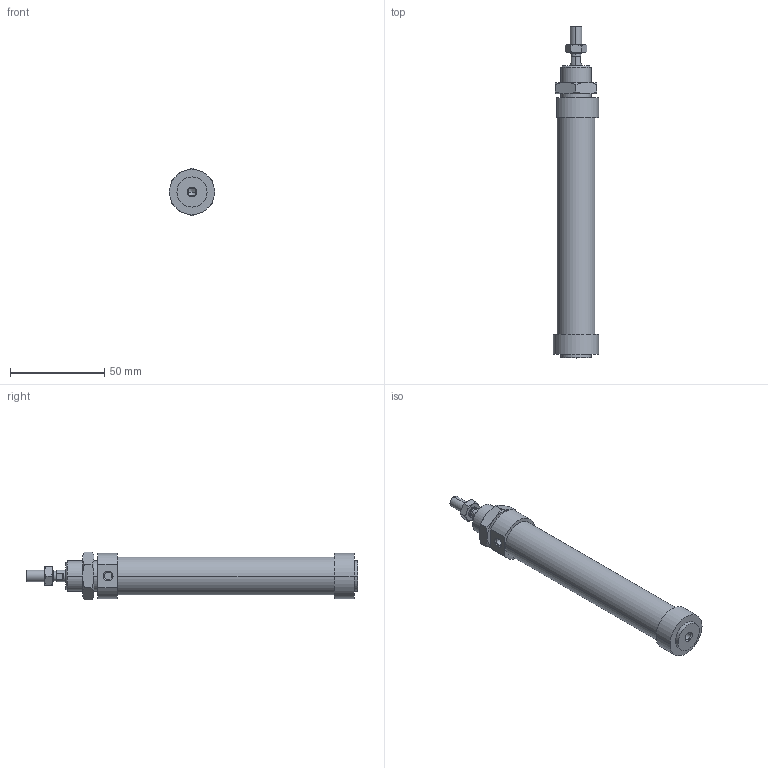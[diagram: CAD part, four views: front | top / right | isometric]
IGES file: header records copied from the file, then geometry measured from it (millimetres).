
Global section: file name: No Iges File Name specified; native system: AutoDesk Inventor R6.0; preprocessor: AutoDesk Inventor Iges Exporter R6.0; author: No Author specified; organization: No Organization specified; date: 20030402.184157; units: millimetre
Bounding box: 24 x 176 x 25.4 mm (x, y, z)
Volume: 51428 mm3; surface area: 17004.2 mm2
Topology: 4 solids, 4 shells, 108 faces, 229 edges, 135 vertices
Faces by surface type: cone 34, plane 33, bspline 21, cylinder 16, revolution 4
